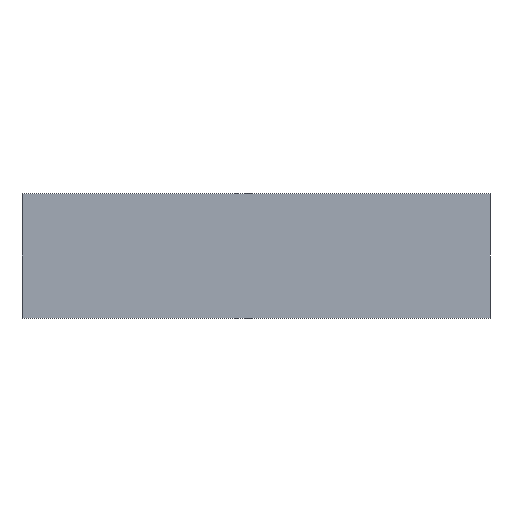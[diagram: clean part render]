
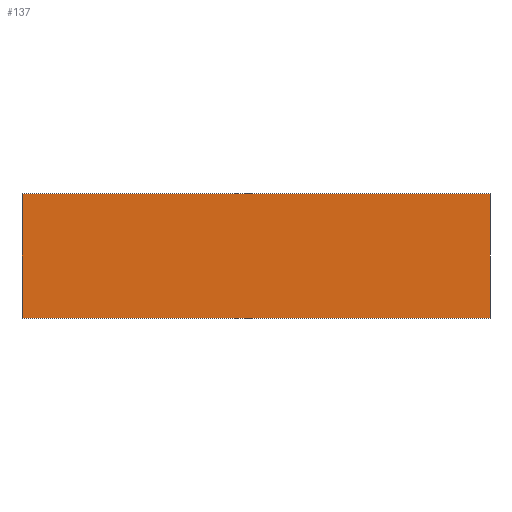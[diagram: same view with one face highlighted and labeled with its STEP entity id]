
A CAD part, front view. The second image highlights one B-rep face of the part: STEP entity #137.
In plain terms, the highlighted planar face has unit normal (0, -1, 0).
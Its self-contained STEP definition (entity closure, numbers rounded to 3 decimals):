
#21 = EDGE_CURVE('',#22,#24,#26,.T.);
#22 = VERTEX_POINT('',#23);
#23 = CARTESIAN_POINT('',(-45.,0.,-12.));
#24 = VERTEX_POINT('',#25);
#25 = CARTESIAN_POINT('',(-45.,0.,12.));
#26 = SURFACE_CURVE('',#27,(#31,#43),.PCURVE_S1.);
#27 = LINE('',#28,#29);
#28 = CARTESIAN_POINT('',(-45.,0.,-12.));
#29 = VECTOR('',#30,1.);
#30 = DIRECTION('',(0.,0.,1.));
#31 = PCURVE('',#32,#37);
#32 = PLANE('',#33);
#33 = AXIS2_PLACEMENT_3D('',#34,#35,#36);
#34 = CARTESIAN_POINT('',(-45.,0.,-12.));
#35 = DIRECTION('',(1.,0.,0.));
#36 = DIRECTION('',(0.,0.,1.));
#37 = DEFINITIONAL_REPRESENTATION('',(#38),#42);
#38 = LINE('',#39,#40);
#39 = CARTESIAN_POINT('',(0.,0.));
#40 = VECTOR('',#41,1.);
#41 = DIRECTION('',(1.,0.));
#42 = ( GEOMETRIC_REPRESENTATION_CONTEXT(2) 
PARAMETRIC_REPRESENTATION_CONTEXT() REPRESENTATION_CONTEXT('2D SPACE',''
  ) );
#43 = PCURVE('',#44,#49);
#44 = PLANE('',#45);
#45 = AXIS2_PLACEMENT_3D('',#46,#47,#48);
#46 = CARTESIAN_POINT('',(-45.,0.,-12.));
#47 = DIRECTION('',(0.,1.,0.));
#48 = DIRECTION('',(0.,0.,1.));
#49 = DEFINITIONAL_REPRESENTATION('',(#50),#54);
#50 = LINE('',#51,#52);
#51 = CARTESIAN_POINT('',(0.,0.));
#52 = VECTOR('',#53,1.);
#53 = DIRECTION('',(1.,0.));
#54 = ( GEOMETRIC_REPRESENTATION_CONTEXT(2) 
PARAMETRIC_REPRESENTATION_CONTEXT() REPRESENTATION_CONTEXT('2D SPACE',''
  ) );
#72 = PLANE('',#73);
#73 = AXIS2_PLACEMENT_3D('',#74,#75,#76);
#74 = CARTESIAN_POINT('',(-45.,0.,-12.));
#75 = DIRECTION('',(0.,0.,1.));
#76 = DIRECTION('',(1.,0.,0.));
#126 = PLANE('',#127);
#127 = AXIS2_PLACEMENT_3D('',#128,#129,#130);
#128 = CARTESIAN_POINT('',(-45.,0.,12.));
#129 = DIRECTION('',(0.,0.,1.));
#130 = DIRECTION('',(1.,0.,0.));
#137 = ADVANCED_FACE('',(#138),#44,.F.);
#138 = FACE_BOUND('',#139,.F.);
#139 = EDGE_LOOP('',(#140,#163,#164,#187));
#140 = ORIENTED_EDGE('',*,*,#141,.F.);
#141 = EDGE_CURVE('',#22,#142,#144,.T.);
#142 = VERTEX_POINT('',#143);
#143 = CARTESIAN_POINT('',(45.,0.,-12.));
#144 = SURFACE_CURVE('',#145,(#149,#156),.PCURVE_S1.);
#145 = LINE('',#146,#147);
#146 = CARTESIAN_POINT('',(-45.,0.,-12.));
#147 = VECTOR('',#148,1.);
#148 = DIRECTION('',(1.,0.,0.));
#149 = PCURVE('',#44,#150);
#150 = DEFINITIONAL_REPRESENTATION('',(#151),#155);
#151 = LINE('',#152,#153);
#152 = CARTESIAN_POINT('',(0.,0.));
#153 = VECTOR('',#154,1.);
#154 = DIRECTION('',(0.,1.));
#155 = ( GEOMETRIC_REPRESENTATION_CONTEXT(2) 
PARAMETRIC_REPRESENTATION_CONTEXT() REPRESENTATION_CONTEXT('2D SPACE',''
  ) );
#156 = PCURVE('',#72,#157);
#157 = DEFINITIONAL_REPRESENTATION('',(#158),#162);
#158 = LINE('',#159,#160);
#159 = CARTESIAN_POINT('',(0.,0.));
#160 = VECTOR('',#161,1.);
#161 = DIRECTION('',(1.,0.));
#162 = ( GEOMETRIC_REPRESENTATION_CONTEXT(2) 
PARAMETRIC_REPRESENTATION_CONTEXT() REPRESENTATION_CONTEXT('2D SPACE',''
  ) );
#163 = ORIENTED_EDGE('',*,*,#21,.T.);
#164 = ORIENTED_EDGE('',*,*,#165,.T.);
#165 = EDGE_CURVE('',#24,#166,#168,.T.);
#166 = VERTEX_POINT('',#167);
#167 = CARTESIAN_POINT('',(45.,0.,12.));
#168 = SURFACE_CURVE('',#169,(#173,#180),.PCURVE_S1.);
#169 = LINE('',#170,#171);
#170 = CARTESIAN_POINT('',(-45.,0.,12.));
#171 = VECTOR('',#172,1.);
#172 = DIRECTION('',(1.,0.,0.));
#173 = PCURVE('',#44,#174);
#174 = DEFINITIONAL_REPRESENTATION('',(#175),#179);
#175 = LINE('',#176,#177);
#176 = CARTESIAN_POINT('',(24.,0.));
#177 = VECTOR('',#178,1.);
#178 = DIRECTION('',(0.,1.));
#179 = ( GEOMETRIC_REPRESENTATION_CONTEXT(2) 
PARAMETRIC_REPRESENTATION_CONTEXT() REPRESENTATION_CONTEXT('2D SPACE',''
  ) );
#180 = PCURVE('',#126,#181);
#181 = DEFINITIONAL_REPRESENTATION('',(#182),#186);
#182 = LINE('',#183,#184);
#183 = CARTESIAN_POINT('',(0.,0.));
#184 = VECTOR('',#185,1.);
#185 = DIRECTION('',(1.,0.));
#186 = ( GEOMETRIC_REPRESENTATION_CONTEXT(2) 
PARAMETRIC_REPRESENTATION_CONTEXT() REPRESENTATION_CONTEXT('2D SPACE',''
  ) );
#187 = ORIENTED_EDGE('',*,*,#188,.F.);
#188 = EDGE_CURVE('',#142,#166,#189,.T.);
#189 = SURFACE_CURVE('',#190,(#194,#201),.PCURVE_S1.);
#190 = LINE('',#191,#192);
#191 = CARTESIAN_POINT('',(45.,0.,-12.));
#192 = VECTOR('',#193,1.);
#193 = DIRECTION('',(0.,0.,1.));
#194 = PCURVE('',#44,#195);
#195 = DEFINITIONAL_REPRESENTATION('',(#196),#200);
#196 = LINE('',#197,#198);
#197 = CARTESIAN_POINT('',(0.,90.));
#198 = VECTOR('',#199,1.);
#199 = DIRECTION('',(1.,0.));
#200 = ( GEOMETRIC_REPRESENTATION_CONTEXT(2) 
PARAMETRIC_REPRESENTATION_CONTEXT() REPRESENTATION_CONTEXT('2D SPACE',''
  ) );
#201 = PCURVE('',#202,#207);
#202 = PLANE('',#203);
#203 = AXIS2_PLACEMENT_3D('',#204,#205,#206);
#204 = CARTESIAN_POINT('',(45.,0.,-12.));
#205 = DIRECTION('',(1.,0.,0.));
#206 = DIRECTION('',(0.,0.,1.));
#207 = DEFINITIONAL_REPRESENTATION('',(#208),#212);
#208 = LINE('',#209,#210);
#209 = CARTESIAN_POINT('',(0.,0.));
#210 = VECTOR('',#211,1.);
#211 = DIRECTION('',(1.,0.));
#212 = ( GEOMETRIC_REPRESENTATION_CONTEXT(2) 
PARAMETRIC_REPRESENTATION_CONTEXT() REPRESENTATION_CONTEXT('2D SPACE',''
  ) );
